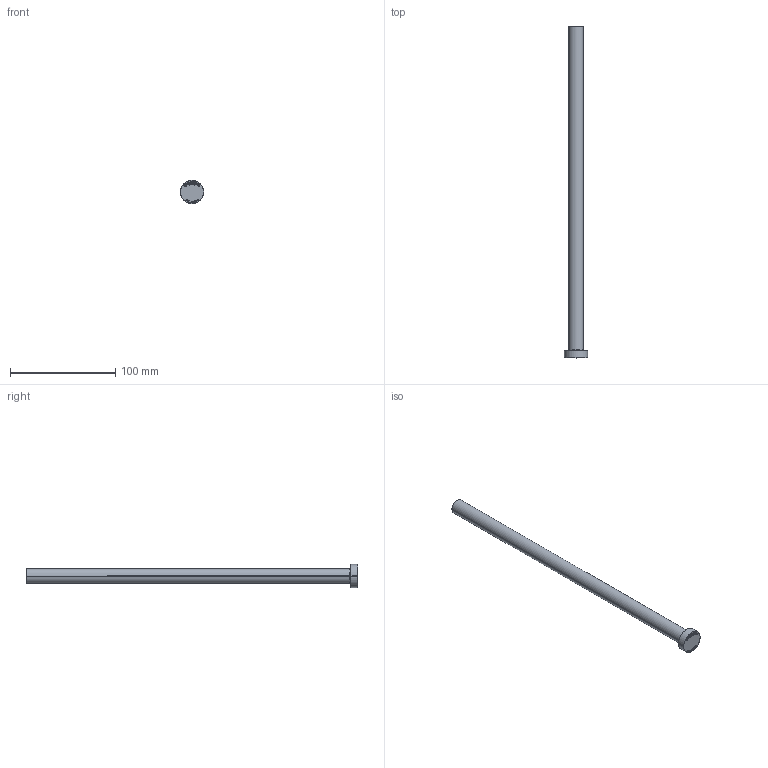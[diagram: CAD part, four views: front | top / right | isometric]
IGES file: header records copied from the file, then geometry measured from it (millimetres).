
Start section: SolidWorks IGES file using analytic representation for surfaces
Global section: file name: C:\Users\User\Downloads\Matripeça 31-08 tar\PB - PINO EXTRATOR TIPO _B_ (CATÁLOGO)\PB14,0\PB14,0315.IGS; native system: SolidWorks 2024; preprocessor: SolidWorks 2024; author: User; date: 260901.154641; units: millimetre
Bounding box: 22 x 315 x 22 mm (x, y, z)
Surface area: 14792.6 mm2 (no closed solid volume)
Topology: 0 solids, 0 shells, 403 faces, 4038 edges, 4038 vertices
Faces by surface type: bspline 389, revolution 14
